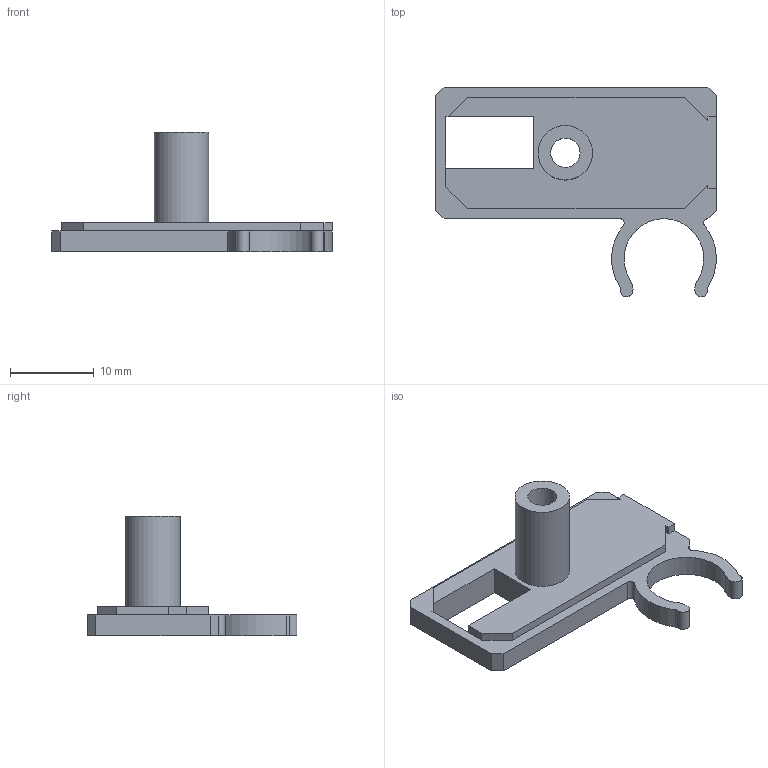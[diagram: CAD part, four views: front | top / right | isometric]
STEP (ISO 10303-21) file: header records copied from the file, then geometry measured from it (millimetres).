
FILE_DESCRIPTION((''),'2;1');
FILE_NAME('D:\Data\Documents\Studium\Faecher\10.Semester\Studienarbeit\Design\Verteilerdose_Deckel.stp','2016-08-24T13:00:17',('Fabian'),(''),'Autodesk Inventor 2013','Autodesk Inventor 2013','');
FILE_SCHEMA(('AUTOMOTIVE_DESIGN { 1 0 10303 214 1 1 1 1 }'));
Length unit declared in the file: millimetre
Products named in the file (1): Verteilerdose_Deckel
Bounding box: 33.48 x 25.02 x 14.3 mm (x, y, z)
Volume: 1736.2 mm3; surface area: 1908 mm2
Topology: 1 solids, 1 shells, 61 faces, 220 edges, 215 vertices
Faces by surface type: plane 47, cylinder 14
Full cylindrical faces by diameter (mm): 3.5 x1, 6.5 x2
Entity records: 2540 total; most frequent: CARTESIAN_POINT 447, DIRECTION 377, ORIENTED_EDGE 328, VECTOR 181, LINE 181, EDGE_CURVE 164, VERTEX_POINT 111, AXIS2_PLACEMENT_3D 98
